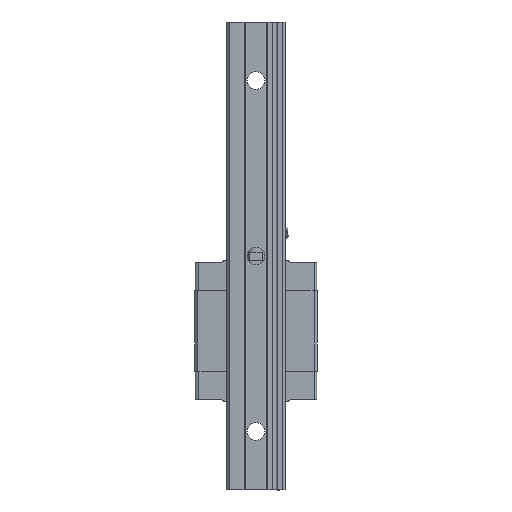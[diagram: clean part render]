
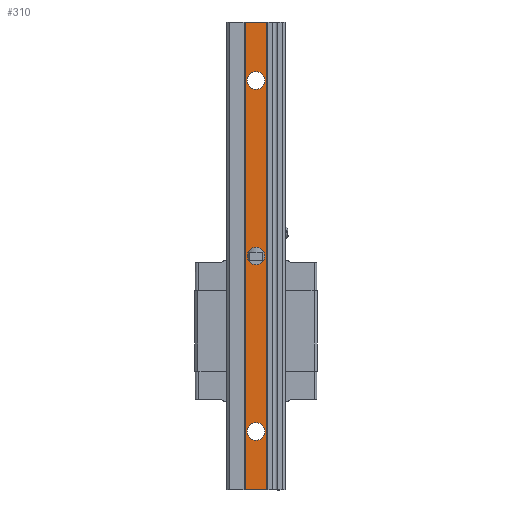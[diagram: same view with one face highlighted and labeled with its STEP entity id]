
A CAD part, front view. The second image highlights one B-rep face of the part: STEP entity #310.
In plain terms, the highlighted planar face has unit normal (0, -1, 0).
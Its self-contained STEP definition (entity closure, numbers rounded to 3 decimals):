
#221=CARTESIAN_POINT('',(12.395,-63.323,-80.));
#222=VERTEX_POINT('',#221);
#223=CARTESIAN_POINT('',(12.395,-63.323,80.0));
#224=VERTEX_POINT('',#223);
#225=CARTESIAN_POINT('',(12.395,-63.323,-80.));
#226=DIRECTION('',(0.0,0.0,1.0));
#227=VECTOR('',#226,160.);
#228=LINE('',#225,#227);
#229=EDGE_CURVE('',#222,#224,#228,.T.);
#247=CARTESIAN_POINT('',(19.595,-63.323,100.0));
#248=DIRECTION('',(0.0,1.0,0.0));
#249=DIRECTION('',(0.0,0.0,1.0));
#250=AXIS2_PLACEMENT_3D('',#247,#248,#249);
#251=PLANE('',#250);
#252=CARTESIAN_POINT('',(19.595,-63.323,80.0));
#253=VERTEX_POINT('',#252);
#254=CARTESIAN_POINT('',(19.595,-63.323,-80.0));
#255=VERTEX_POINT('',#254);
#256=CARTESIAN_POINT('',(19.595,-63.323,80.0));
#257=DIRECTION('',(0.0,0.0,-1.0));
#258=VECTOR('',#257,160.0);
#259=LINE('',#256,#258);
#260=EDGE_CURVE('',#253,#255,#259,.T.);
#261=ORIENTED_EDGE('',*,*,#260,.F.);
#262=CARTESIAN_POINT('',(12.395,-63.323,80.0));
#263=DIRECTION('',(1.0,0.0,0.0));
#264=VECTOR('',#263,7.2);
#265=LINE('',#262,#264);
#266=EDGE_CURVE('',#224,#253,#265,.T.);
#267=ORIENTED_EDGE('',*,*,#266,.F.);
#268=ORIENTED_EDGE('',*,*,#229,.F.);
#269=CARTESIAN_POINT('',(12.395,-63.323,-80.));
#270=DIRECTION('',(1.0,0.0,0.0));
#271=VECTOR('',#270,7.2);
#272=LINE('',#269,#271);
#273=EDGE_CURVE('',#222,#255,#272,.T.);
#274=ORIENTED_EDGE('',*,*,#273,.T.);
#275=EDGE_LOOP('',(#261,#267,#268,#274));
#276=FACE_OUTER_BOUND('',#275,.T.);
#277=CARTESIAN_POINT('',(15.994,-63.323,63.));
#278=VERTEX_POINT('',#277);
#279=CARTESIAN_POINT('',(15.994,-63.323,60.0));
#280=DIRECTION('',(0.0,-1.0,0.0));
#281=DIRECTION('',(0.0,0.0,1.0));
#282=AXIS2_PLACEMENT_3D('',#279,#280,#281);
#283=CIRCLE('',#282,3.);
#284=EDGE_CURVE('',#278,#278,#283,.T.);
#285=ORIENTED_EDGE('',*,*,#284,.F.);
#286=EDGE_LOOP('',(#285));
#287=FACE_BOUND('',#286,.T.);
#288=CARTESIAN_POINT('',(15.994,-63.323,3.));
#289=VERTEX_POINT('',#288);
#290=CARTESIAN_POINT('',(15.994,-63.323,0.));
#291=DIRECTION('',(0.0,-1.0,0.0));
#292=DIRECTION('',(0.0,0.0,1.0));
#293=AXIS2_PLACEMENT_3D('',#290,#291,#292);
#294=CIRCLE('',#293,3.);
#295=EDGE_CURVE('',#289,#289,#294,.T.);
#296=ORIENTED_EDGE('',*,*,#295,.F.);
#297=EDGE_LOOP('',(#296));
#298=FACE_BOUND('',#297,.T.);
#299=CARTESIAN_POINT('',(15.994,-63.323,-57.));
#300=VERTEX_POINT('',#299);
#301=CARTESIAN_POINT('',(15.994,-63.323,-60.));
#302=DIRECTION('',(0.0,-1.0,0.0));
#303=DIRECTION('',(0.0,0.0,1.0));
#304=AXIS2_PLACEMENT_3D('',#301,#302,#303);
#305=CIRCLE('',#304,3.);
#306=EDGE_CURVE('',#300,#300,#305,.T.);
#307=ORIENTED_EDGE('',*,*,#306,.F.);
#308=EDGE_LOOP('',(#307));
#309=FACE_BOUND('',#308,.T.);
#310=ADVANCED_FACE('',(#276,#287,#298,#309),#251,.F.);
